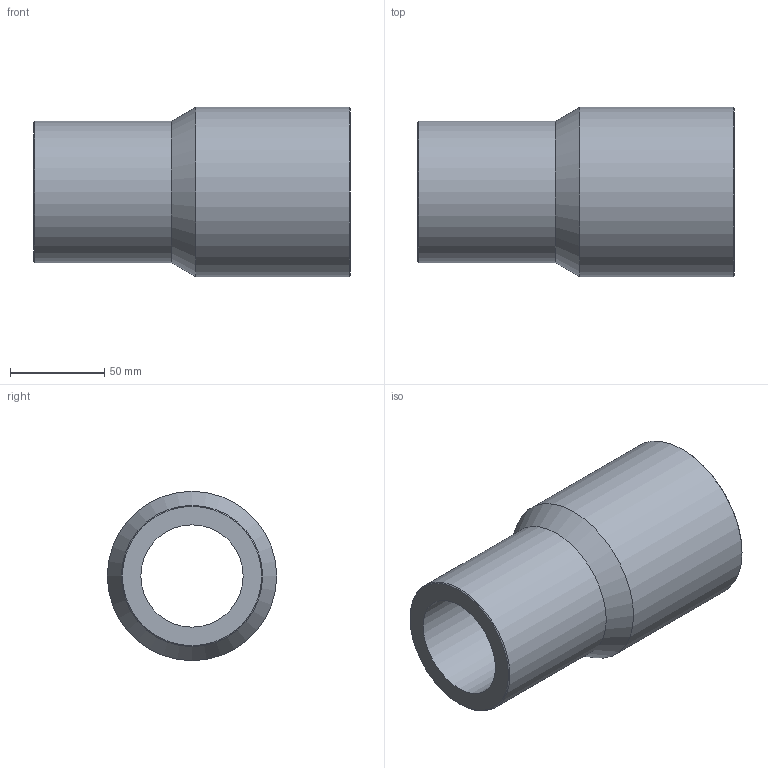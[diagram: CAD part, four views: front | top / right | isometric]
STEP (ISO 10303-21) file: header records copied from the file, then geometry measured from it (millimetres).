
FILE_DESCRIPTION(/* description */ ('Unknown'),/* implementation_level */ '2;1');
FILE_NAME(/* name */ 'RP090075H',/* time_stamp */ '2021-09-16T12:02:57+02:00',/* author */ ('Unknown'),/* organization */ ('Unknown'),/* preprocessor_version */ 'ST-DEVELOPER v16.7',/* originating_system */ 'Solid Edge',/* authorisation */ 'Unknown');
FILE_SCHEMA (('AUTOMOTIVE_DESIGN {1 0 10303 214 3 1 1}'));
Length unit declared in the file: millimetre
Products named in the file (1): RP090075H
Bounding box: 168 x 90 x 90 mm (x, y, z)
Volume: 436652.4 mm3; surface area: 80987.7 mm2
Topology: 1 solids, 1 shells, 10 faces, 19 edges, 11 vertices
Faces by surface type: cylinder 4, cone 4, plane 2
Full cylindrical faces by diameter (mm): 54.4 x1, 65.4 x1, 75 x1, 90 x1
Entity records: 238 total; most frequent: DIRECTION 42, CARTESIAN_POINT 31, AXIS2_PLACEMENT_3D 21, ORIENTED_EDGE 20, EDGE_LOOP 20, FACE_BOUND 20, EDGE_CURVE 10, VERTEX_POINT 10
